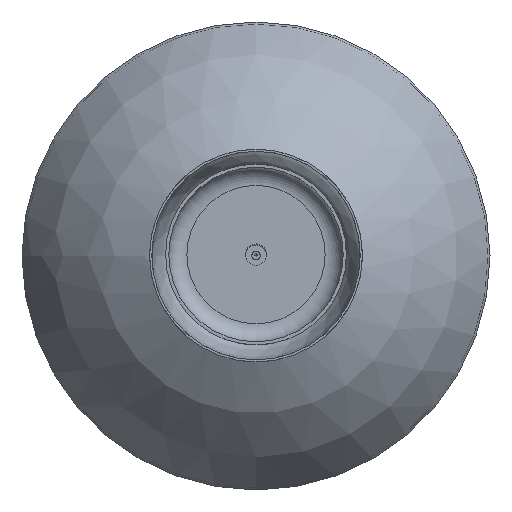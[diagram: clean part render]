
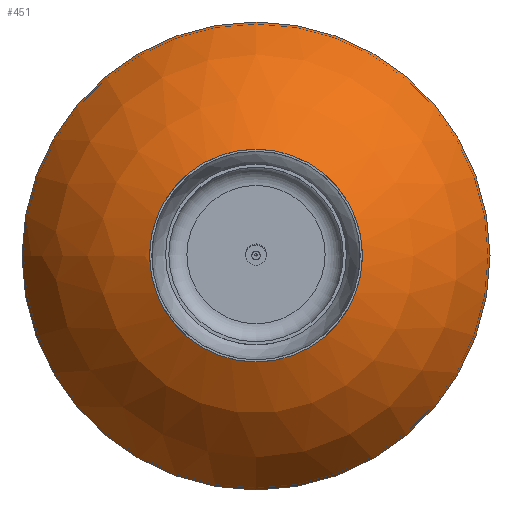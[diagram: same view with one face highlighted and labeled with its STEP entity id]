
A CAD part, top view. The second image highlights one B-rep face of the part: STEP entity #451.
In plain terms, the highlighted spherical face has radius 121.341 mm.
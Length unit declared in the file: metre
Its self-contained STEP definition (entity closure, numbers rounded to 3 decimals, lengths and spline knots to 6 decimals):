
#451 = ADVANCED_FACE( '', ( #550, #551 ), #552, .T. );
#550 = FACE_OUTER_BOUND( '', #770, .T. );
#551 = FACE_OUTER_BOUND( '', #771, .T. );
#552 = SPHERICAL_SURFACE( '', #772, 0.121341 );
#770 = EDGE_LOOP( '', ( #1050 ) );
#771 = EDGE_LOOP( '', ( #1051 ) );
#772 = AXIS2_PLACEMENT_3D( '', #1052, #1053, #1054 );
#1050 = ORIENTED_EDGE( '', *, *, #1250, .F. );
#1051 = ORIENTED_EDGE( '', *, *, #1230, .T. );
#1052 = CARTESIAN_POINT( '', ( 0., 0., -0.051221 ) );
#1053 = DIRECTION( '', ( 0., 0., -1. ) );
#1054 = DIRECTION( '', ( -1., 0., 0. ) );
#1230 = EDGE_CURVE( '', #1351, #1351, #1352, .T. );
#1250 = EDGE_CURVE( '', #1383, #1383, #1384, .T. );
#1351 = VERTEX_POINT( '', #1667 );
#1352 = CIRCLE( '', #1668, 0.0215 );
#1383 = VERTEX_POINT( '', #1793 );
#1384 = CIRCLE( '', #1794, 0.11 );
#1667 = CARTESIAN_POINT( '', ( -0.0215, 0., 0.0682 ) );
#1668 = AXIS2_PLACEMENT_3D( '', #2150, #2151, #2152 );
#1793 = CARTESIAN_POINT( '', ( -0.11, 0., 0. ) );
#1794 = AXIS2_PLACEMENT_3D( '', #2185, #2186, #2187 );
#2150 = CARTESIAN_POINT( '', ( 0., 0., 0.0682 ) );
#2151 = DIRECTION( '', ( 0., 0., -1. ) );
#2152 = DIRECTION( '', ( -1., 0., 0. ) );
#2185 = CARTESIAN_POINT( '', ( 0., 0., 0. ) );
#2186 = DIRECTION( '', ( 0., 0., -1. ) );
#2187 = DIRECTION( '', ( -1., 0., 0. ) );
